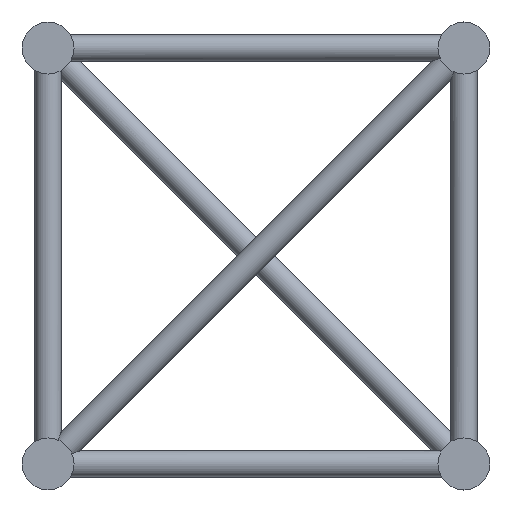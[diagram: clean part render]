
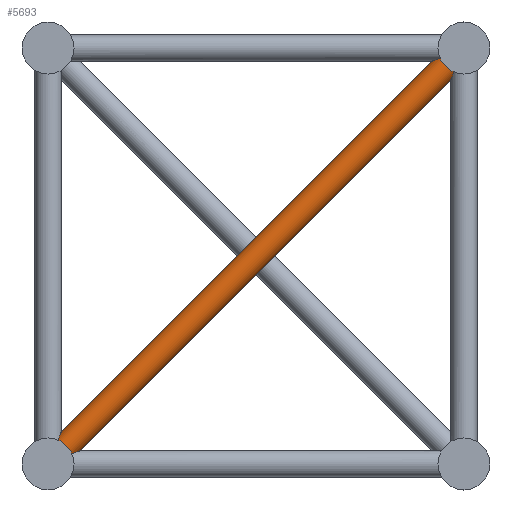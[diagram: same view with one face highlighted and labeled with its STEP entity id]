
A CAD part, left-side view. The second image highlights one B-rep face of the part: STEP entity #5693.
In plain terms, the highlighted cylindrical face has radius 15 mm (diameter 30 mm), a full revolution.
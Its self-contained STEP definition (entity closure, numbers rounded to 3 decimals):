
#188=ELLIPSE('',#6351,39.197,15.);
#189=ELLIPSE('',#6354,39.197,15.);
#190=ELLIPSE('',#6356,39.197,15.);
#191=ELLIPSE('',#6358,39.197,15.);
#698=CYLINDRICAL_SURFACE('',#6352,15.);
#843=FACE_BOUND('',#1510,.T.);
#1080=FACE_OUTER_BOUND('',#1509,.T.);
#1509=EDGE_LOOP('',(#4326,#4327,#4328,#4329,#4330,#4331));
#1510=EDGE_LOOP('',(#4332,#4333,#4334,#4335,#4336,#4337));
#1882=CIRCLE('',#6197,15.);
#1883=CIRCLE('',#6200,15.);
#1931=CIRCLE('',#6321,15.);
#1932=CIRCLE('',#6322,15.);
#1944=CIRCLE('',#6353,15.);
#1945=CIRCLE('',#6355,15.);
#1946=CIRCLE('',#6357,15.);
#1947=CIRCLE('',#6359,15.);
#2335=VERTEX_POINT('',#11063);
#2336=VERTEX_POINT('',#11064);
#2389=VERTEX_POINT('',#11659);
#2392=VERTEX_POINT('',#11665);
#2491=VERTEX_POINT('',#12507);
#2492=VERTEX_POINT('',#12508);
#2517=VERTEX_POINT('',#12803);
#2518=VERTEX_POINT('',#12805);
#2519=VERTEX_POINT('',#12809);
#2520=VERTEX_POINT('',#12811);
#2529=VERTEX_POINT('',#12861);
#2530=VERTEX_POINT('',#12863);
#3014=EDGE_CURVE('',#2335,#2389,#1882,.T.);
#3018=EDGE_CURVE('',#2392,#2336,#1883,.T.);
#3175=EDGE_CURVE('',#2491,#2519,#1931,.T.);
#3177=EDGE_CURVE('',#2520,#2492,#1932,.T.);
#3204=EDGE_CURVE('',#2529,#2530,#188,.T.);
#3205=EDGE_CURVE('',#2336,#2530,#1944,.T.);
#3206=EDGE_CURVE('',#2392,#2389,#189,.T.);
#3207=EDGE_CURVE('',#2529,#2335,#1945,.T.);
#3208=EDGE_CURVE('',#2517,#2518,#190,.T.);
#3209=EDGE_CURVE('',#2492,#2518,#1946,.T.);
#3210=EDGE_CURVE('',#2520,#2519,#191,.T.);
#3211=EDGE_CURVE('',#2517,#2491,#1947,.T.);
#4326=ORIENTED_EDGE('',*,*,#3204,.T.);
#4327=ORIENTED_EDGE('',*,*,#3205,.F.);
#4328=ORIENTED_EDGE('',*,*,#3018,.F.);
#4329=ORIENTED_EDGE('',*,*,#3206,.T.);
#4330=ORIENTED_EDGE('',*,*,#3014,.F.);
#4331=ORIENTED_EDGE('',*,*,#3207,.F.);
#4332=ORIENTED_EDGE('',*,*,#3208,.T.);
#4333=ORIENTED_EDGE('',*,*,#3209,.F.);
#4334=ORIENTED_EDGE('',*,*,#3177,.F.);
#4335=ORIENTED_EDGE('',*,*,#3210,.T.);
#4336=ORIENTED_EDGE('',*,*,#3175,.F.);
#4337=ORIENTED_EDGE('',*,*,#3211,.F.);
#5693=ADVANCED_FACE('',(#1080,#843),#698,.T.);
#6197=AXIS2_PLACEMENT_3D('',#11660,#7383,#7384);
#6200=AXIS2_PLACEMENT_3D('',#11667,#7390,#7391);
#6321=AXIS2_PLACEMENT_3D('',#12810,#7667,#7668);
#6322=AXIS2_PLACEMENT_3D('',#12813,#7670,#7671);
#6351=AXIS2_PLACEMENT_3D('',#12865,#7741,#7742);
#6352=AXIS2_PLACEMENT_3D('',#12866,#7743,#7744);
#6353=AXIS2_PLACEMENT_3D('',#12867,#7745,#7746);
#6354=AXIS2_PLACEMENT_3D('',#12868,#7747,#7748);
#6355=AXIS2_PLACEMENT_3D('',#12869,#7749,#7750);
#6356=AXIS2_PLACEMENT_3D('',#12870,#7751,#7752);
#6357=AXIS2_PLACEMENT_3D('',#12871,#7753,#7754);
#6358=AXIS2_PLACEMENT_3D('',#12872,#7755,#7756);
#6359=AXIS2_PLACEMENT_3D('',#12873,#7757,#7758);
#7383=DIRECTION('center_axis',(0.,-0.707,0.707));
#7384=DIRECTION('ref_axis',(0.,-0.707,-0.707));
#7390=DIRECTION('center_axis',(0.,-0.707,0.707));
#7391=DIRECTION('ref_axis',(0.,-0.707,-0.707));
#7667=DIRECTION('center_axis',(0.,0.707,-0.707));
#7668=DIRECTION('ref_axis',(0.,-0.707,-0.707));
#7670=DIRECTION('center_axis',(0.,0.707,-0.707));
#7671=DIRECTION('ref_axis',(0.,-0.707,-0.707));
#7741=DIRECTION('center_axis',(0.,0.924,0.383));
#7742=DIRECTION('ref_axis',(0.,-0.383,0.924));
#7743=DIRECTION('center_axis',(0.,-0.707,
0.707));
#7744=DIRECTION('ref_axis',(0.,-0.707,-0.707));
#7745=DIRECTION('center_axis',(0.,-0.707,0.707));
#7746=DIRECTION('ref_axis',(0.,-0.707,-0.707));
#7747=DIRECTION('center_axis',(0.,-0.383,
-0.924));
#7748=DIRECTION('ref_axis',(0.,-0.924,0.383));
#7749=DIRECTION('center_axis',(0.,-0.707,0.707));
#7750=DIRECTION('ref_axis',(0.,-0.707,-0.707));
#7751=DIRECTION('center_axis',(0.,-0.924,-0.383));
#7752=DIRECTION('ref_axis',(0.,-0.383,0.924));
#7753=DIRECTION('center_axis',(0.,0.707,-0.707));
#7754=DIRECTION('ref_axis',(0.,-0.707,-0.707));
#7755=DIRECTION('center_axis',(0.,0.383,0.924));
#7756=DIRECTION('ref_axis',(0.,-0.924,0.383));
#7757=DIRECTION('center_axis',(0.,0.707,-0.707));
#7758=DIRECTION('ref_axis',(0.,-0.707,-0.707));
#11063=CARTESIAN_POINT('',(110.,17.678,-17.678));
#11064=CARTESIAN_POINT('',(80.,17.678,-17.678));
#11659=CARTESIAN_POINT('',(105.852,25.,-10.355));
#11660=CARTESIAN_POINT('Origin',(95.,17.678,-17.678));
#11665=CARTESIAN_POINT('',(84.148,25.,-10.355));
#11667=CARTESIAN_POINT('Origin',(95.,17.678,-17.678));
#12507=CARTESIAN_POINT('',(110.,452.322,-452.322));
#12508=CARTESIAN_POINT('',(80.,452.322,-452.322));
#12803=CARTESIAN_POINT('',(105.852,459.645,-445.));
#12805=CARTESIAN_POINT('',(84.148,459.645,-445.));
#12809=CARTESIAN_POINT('',(105.852,445.,-459.645));
#12810=CARTESIAN_POINT('Origin',(95.,452.322,-452.322));
#12811=CARTESIAN_POINT('',(84.148,445.,-459.645));
#12813=CARTESIAN_POINT('Origin',(95.,452.322,-452.322));
#12861=CARTESIAN_POINT('',(105.852,10.355,-25.));
#12863=CARTESIAN_POINT('',(84.148,10.355,-25.));
#12865=CARTESIAN_POINT('Origin',(95.,0.,
0.));
#12866=CARTESIAN_POINT('Origin',(95.,452.322,-452.322));
#12867=CARTESIAN_POINT('Origin',(95.,17.678,-17.678));
#12868=CARTESIAN_POINT('Origin',(95.,0.,
0.));
#12869=CARTESIAN_POINT('Origin',(95.,17.678,-17.678));
#12870=CARTESIAN_POINT('Origin',(95.,470.,-470.));
#12871=CARTESIAN_POINT('Origin',(95.,452.322,-452.322));
#12872=CARTESIAN_POINT('Origin',(95.,470.,-470.));
#12873=CARTESIAN_POINT('Origin',(95.,452.322,-452.322));
